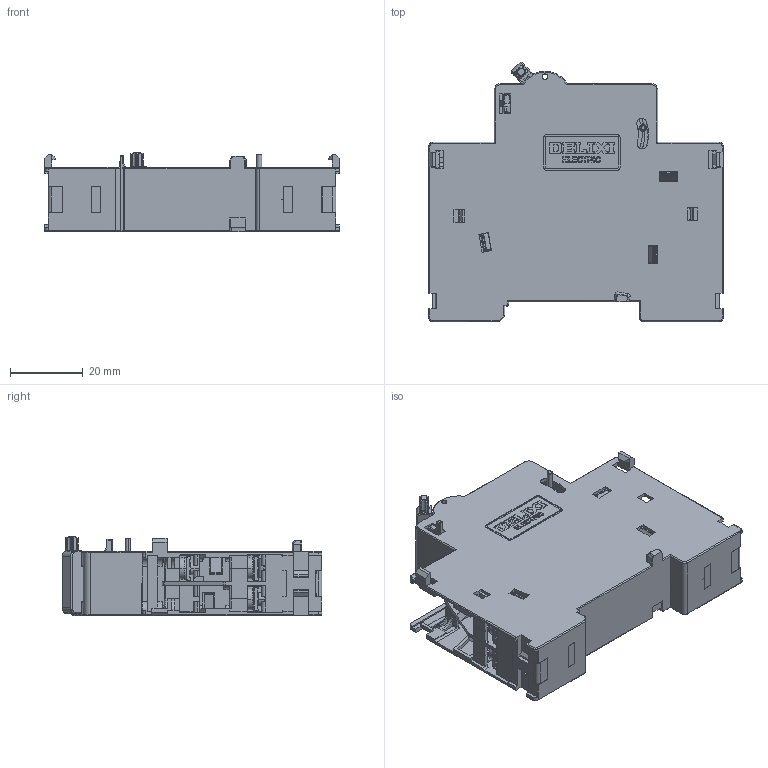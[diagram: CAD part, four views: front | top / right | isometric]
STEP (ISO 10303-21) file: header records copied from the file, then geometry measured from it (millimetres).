
FILE_DESCRIPTION((''),'2;1');
FILE_NAME('2297008500_SW0001','2023-11-09T',('dufeng.zhai'),(''),'PRO/ENGINEER BY PARAMETRIC TECHNOLOGY CORPORATION, 2015440','PRO/ENGINEER BY PARAMETRIC TECHNOLOGY CORPORATION, 2015440','');
FILE_SCHEMA(('CONFIG_CONTROL_DESIGN'));
Products named in the file (1): 2297008500_SW0001
Bounding box: 80.8 x 71.31 x 21.85 mm (x, y, z)
Volume: 56696.3 mm3; surface area: 38636.3 mm2
Topology: 4 solids, 4 shells, 3337 faces, 9449 edges, 6037 vertices
Faces by surface type: plane 2235, cylinder 716, cone 108, torus 103, bspline 79, sphere 53, extrusion 43
Entity records: 115210 total; most frequent: CARTESIAN_POINT 29084, ORIENTED_EDGE 18898, DIRECTION 16771, EDGE_CURVE 9449, VECTOR 7189, LINE 7146, VERTEX_POINT 6037, AXIS2_PLACEMENT_3D 4791
